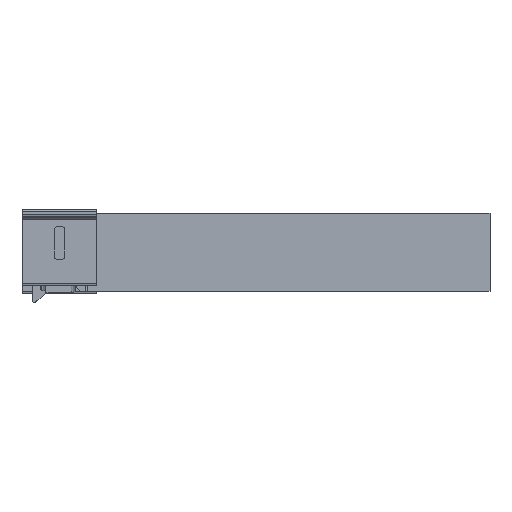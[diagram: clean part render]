
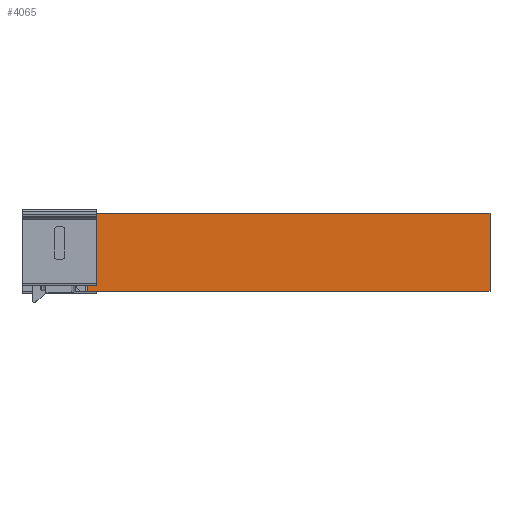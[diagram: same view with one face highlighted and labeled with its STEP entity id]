
A CAD part, top view. The second image highlights one B-rep face of the part: STEP entity #4065.
In plain terms, the highlighted planar face has unit normal (0, 0, 1) as drawn and (-1, 0, 0) by its records, which use the part's own axes.
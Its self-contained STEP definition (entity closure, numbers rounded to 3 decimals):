
#176 = VECTOR ( 'NONE', #4235, 1000. ) ;
#279 = CARTESIAN_POINT ( 'NONE',  ( -3., -18.85, 100.16 ) ) ;
#368 = EDGE_CURVE ( 'NONE', #4349, #613, #2973, .T. ) ;
#613 = VERTEX_POINT ( 'NONE', #1264 ) ;
#849 = AXIS2_PLACEMENT_3D ( 'NONE', #2057, #4326, #2106 ) ;
#938 = EDGE_LOOP ( 'NONE', ( #4680, #2295, #2563, #1685 ) ) ;
#983 = PLANE ( 'NONE',  #849 ) ;
#1063 = DIRECTION ( 'NONE',  ( 0., 1., 0. ) ) ;
#1106 = VERTEX_POINT ( 'NONE', #4355 ) ;
#1183 = LINE ( 'NONE', #1724, #1266 ) ;
#1264 = CARTESIAN_POINT ( 'NONE',  ( -3., -18.85, 100.16 ) ) ;
#1266 = VECTOR ( 'NONE', #4400, 1000. ) ;
#1685 = ORIENTED_EDGE ( 'NONE', *, *, #2509, .T. ) ;
#1724 = CARTESIAN_POINT ( 'NONE',  ( -3., 0., 99.504 ) ) ;
#1761 = VERTEX_POINT ( 'NONE', #2774 ) ;
#1826 = LINE ( 'NONE', #3355, #3182 ) ;
#2057 = CARTESIAN_POINT ( 'NONE',  ( -3., -18.85, 99.504 ) ) ;
#2106 = DIRECTION ( 'NONE',  ( 0., 0., 1. ) ) ;
#2129 = DIRECTION ( 'NONE',  ( 0., 1., 0. ) ) ;
#2295 = ORIENTED_EDGE ( 'NONE', *, *, #2989, .F. ) ;
#2467 = VECTOR ( 'NONE', #1063, 1000. ) ;
#2509 = EDGE_CURVE ( 'NONE', #613, #1761, #4430, .T. ) ;
#2563 = ORIENTED_EDGE ( 'NONE', *, *, #368, .T. ) ;
#2703 = EDGE_CURVE ( 'NONE', #1106, #1761, #1183, .T. ) ;
#2774 = CARTESIAN_POINT ( 'NONE',  ( -3., 0., 100.16 ) ) ;
#2834 = FACE_OUTER_BOUND ( 'NONE', #938, .T. ) ;
#2973 = LINE ( 'NONE', #279, #176 ) ;
#2989 = EDGE_CURVE ( 'NONE', #4349, #1106, #1826, .T. ) ;
#3055 = CARTESIAN_POINT ( 'NONE',  ( -3., -18.85, 2.86 ) ) ;
#3182 = VECTOR ( 'NONE', #2129, 1000. ) ;
#3355 = CARTESIAN_POINT ( 'NONE',  ( -3., -18.85, 2.86 ) ) ;
#4065 = ADVANCED_FACE ( 'NONE', ( #2834 ), #983, .T. ) ;
#4235 = DIRECTION ( 'NONE',  ( 0., 0., 1. ) ) ;
#4326 = DIRECTION ( 'NONE',  ( -1., 0., 0. ) ) ;
#4349 = VERTEX_POINT ( 'NONE', #3055 ) ;
#4355 = CARTESIAN_POINT ( 'NONE',  ( -3., 0., 2.86 ) ) ;
#4400 = DIRECTION ( 'NONE',  ( 0., 0., 1. ) ) ;
#4430 = LINE ( 'NONE', #4856, #2467 ) ;
#4680 = ORIENTED_EDGE ( 'NONE', *, *, #2703, .F. ) ;
#4856 = CARTESIAN_POINT ( 'NONE',  ( -3., -18.85, 100.16 ) ) ;
